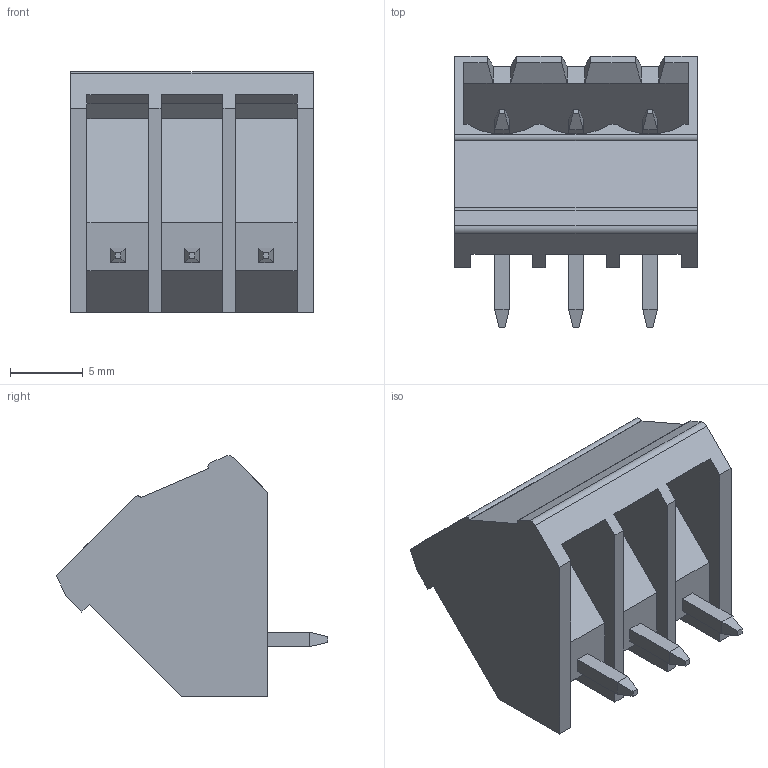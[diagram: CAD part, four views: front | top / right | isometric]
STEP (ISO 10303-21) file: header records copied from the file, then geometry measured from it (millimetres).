
FILE_DESCRIPTION((''),'2;1');
FILE_NAME('3PIN_SW0001','2019-05-10T',('zhenbing.lai'),(''),'CREO PARAMETRIC BY PTC INC, 2016260','CREO PARAMETRIC BY PTC INC, 2016260','');
FILE_SCHEMA(('CONFIG_CONTROL_DESIGN'));
Length unit declared in the file: millimetre
Products named in the file (1): 3PIN_SW0001
Bounding box: 16.64 x 18.6 x 16.5 mm (x, y, z)
Volume: 1425.7 mm3; surface area: 1966 mm2
Topology: 1 solids, 1 shells, 145 faces, 363 edges, 220 vertices
Faces by surface type: plane 124, cylinder 12, cone 9
Entity records: 4184 total; most frequent: CARTESIAN_POINT 722, ORIENTED_EDGE 714, DIRECTION 674, EDGE_CURVE 357, VECTOR 330, LINE 330, VERTEX_POINT 220, AXIS2_PLACEMENT_3D 172
